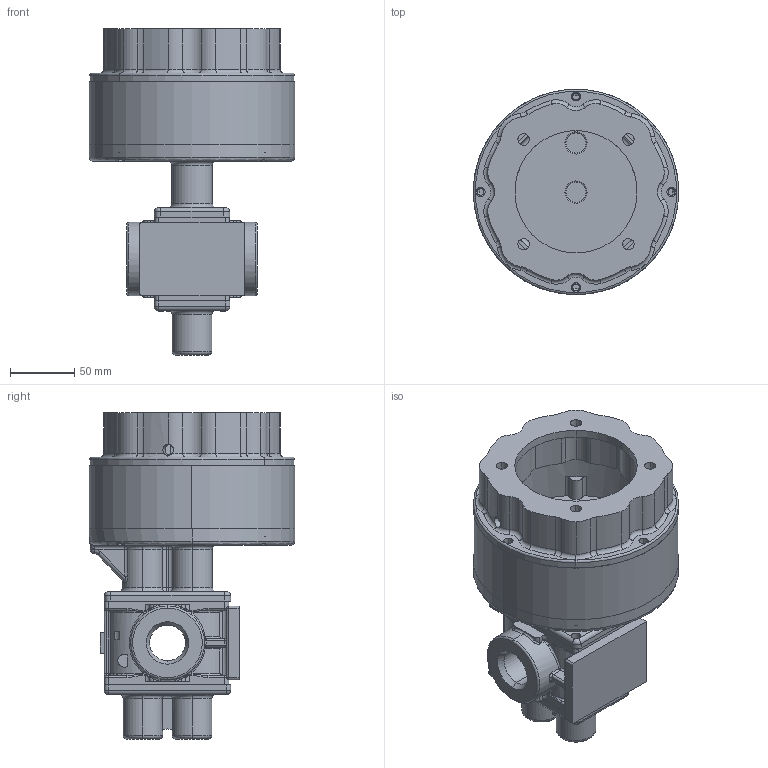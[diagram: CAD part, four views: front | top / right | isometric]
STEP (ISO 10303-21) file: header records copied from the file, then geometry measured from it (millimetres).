
FILE_DESCRIPTION (( 'STEP AP214' ), '1' );
FILE_NAME ('GMC8 FNPT IEC90 NO MOTOR.STEP', '2025-10-02T12:13:57', ( '' ), ( '' ), 'SwSTEP 2.0', 'SolidWorks 2024', '' );
FILE_SCHEMA (( 'AUTOMOTIVE_DESIGN' ));
Length unit declared in the file: inch
Products named in the file (1): GMC8 FNPT IEC90 NO MOTOR
Bounding box: 159.51 x 159.51 x 253.29 mm (x, y, z)
Volume: 1001155.8 mm3; surface area: 286186.2 mm2
Topology: 12 solids, 12 shells, 1935 faces, 5101 edges, 3261 vertices
Faces by surface type: plane 856, cylinder 437, bspline 396, torus 160, cone 57, sphere 29
Entity records: 83750 total; most frequent: CARTESIAN_POINT 38035, ORIENTED_EDGE 10136, DIRECTION 8370, EDGE_CURVE 5068, VERTEX_POINT 3261, LINE 2840, VECTOR 2840, AXIS2_PLACEMENT_3D 2765
